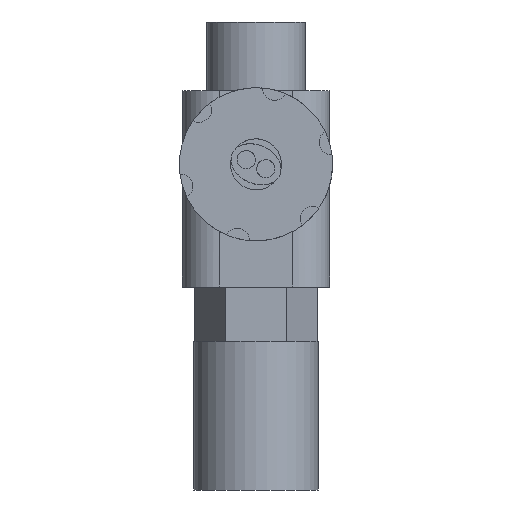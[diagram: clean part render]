
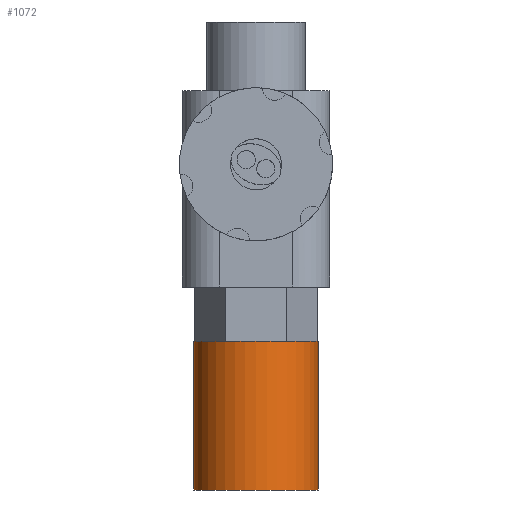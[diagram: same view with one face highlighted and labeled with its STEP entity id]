
A CAD part, front view. The second image highlights one B-rep face of the part: STEP entity #1072.
In plain terms, the highlighted cylindrical face has radius 8.052 mm (diameter 16.104 mm), a full revolution.
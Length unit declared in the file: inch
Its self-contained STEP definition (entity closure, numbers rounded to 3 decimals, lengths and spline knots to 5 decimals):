
#222 = CARTESIAN_POINT ( 'NONE',  ( 0., 0., 2.3093 ) ) ;
#223 = DIRECTION ( 'NONE',  ( 0., 0., 1. ) ) ;
#231 = DIRECTION ( 'NONE',  ( 0., -1., 0. ) ) ;
#676 = CIRCLE ( 'NONE', #2753, 0.317 ) ;
#677 = CIRCLE ( 'NONE', #2707, 0.317 ) ;
#867 = FACE_OUTER_BOUND ( 'NONE', #2028, .T. ) ;
#868 = FACE_OUTER_BOUND ( 'NONE', #2047, .T. ) ;
#877 = CYLINDRICAL_SURFACE ( 'NONE', #2692, 0.317 ) ;
#1009 = CARTESIAN_POINT ( 'NONE',  ( 0., 0., -1.034 ) ) ;
#1010 = DIRECTION ( 'NONE',  ( 0., 0., 1. ) ) ;
#1011 = DIRECTION ( 'NONE',  ( 0., -1., 0. ) ) ;
#1015 = CARTESIAN_POINT ( 'NONE',  ( 0., 0., -0.276 ) ) ;
#1016 = DIRECTION ( 'NONE',  ( 0., 0., 1. ) ) ;
#1017 = DIRECTION ( 'NONE',  ( 0., -1., 0. ) ) ;
#1072 = ADVANCED_FACE ( 'NONE', ( #867, #868 ), #877, .T. ) ;
#1351 = EDGE_CURVE ( 'NONE', #1515, #1515, #677, .T. ) ;
#1356 = EDGE_CURVE ( 'NONE', #1516, #1516, #676, .T. ) ;
#1515 = VERTEX_POINT ( 'NONE', #2368 ) ;
#1516 = VERTEX_POINT ( 'NONE', #2370 ) ;
#2028 = EDGE_LOOP ( 'NONE', ( #2936 ) ) ;
#2047 = EDGE_LOOP ( 'NONE', ( #2953 ) ) ;
#2368 = CARTESIAN_POINT ( 'NONE',  ( 0., -0.317, -1.034 ) ) ;
#2370 = CARTESIAN_POINT ( 'NONE',  ( 0., -0.317, -0.276 ) ) ;
#2692 = AXIS2_PLACEMENT_3D ( 'NONE', #222, #223, #231 ) ;
#2707 = AXIS2_PLACEMENT_3D ( 'NONE', #1009, #1010, #1011 ) ;
#2753 = AXIS2_PLACEMENT_3D ( 'NONE', #1015, #1016, #1017 ) ;
#2936 = ORIENTED_EDGE ( 'NONE', *, *, #1351, .T. ) ;
#2953 = ORIENTED_EDGE ( 'NONE', *, *, #1356, .F. ) ;
